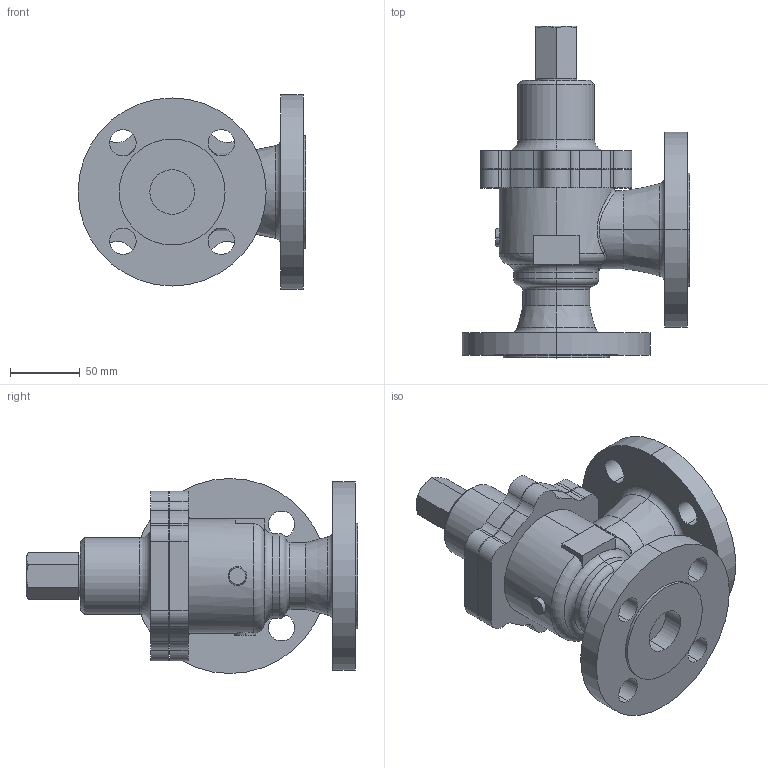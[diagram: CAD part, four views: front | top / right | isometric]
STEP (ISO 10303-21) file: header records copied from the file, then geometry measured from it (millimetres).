
FILE_DESCRIPTION (( 'STEP AP203' ), '1' );
FILE_NAME ('AL-31 32A.STEP', '2026-01-13T07:18:27', ( '' ), ( '' ), 'SwSTEP 2.0', 'SolidWorks 2024', '' );
FILE_SCHEMA (( 'CONFIG_CONTROL_DESIGN' ));
Length unit declared in the file: millimetre
Products named in the file (1): AL-31 32A
Bounding box: 163.5 x 238.3 x 140 mm (x, y, z)
Volume: 1347730.8 mm3; surface area: 147609.2 mm2
Topology: 1 solids, 1 shells, 163 faces, 406 edges, 257 vertices
Faces by surface type: cylinder 89, plane 44, torus 14, cone 12, bspline 4
Entity records: 6117 total; most frequent: CARTESIAN_POINT 1984, DIRECTION 929, ORIENTED_EDGE 812, EDGE_CURVE 406, AXIS2_PLACEMENT_3D 391, VERTEX_POINT 257, CIRCLE 231, EDGE_LOOP 191
